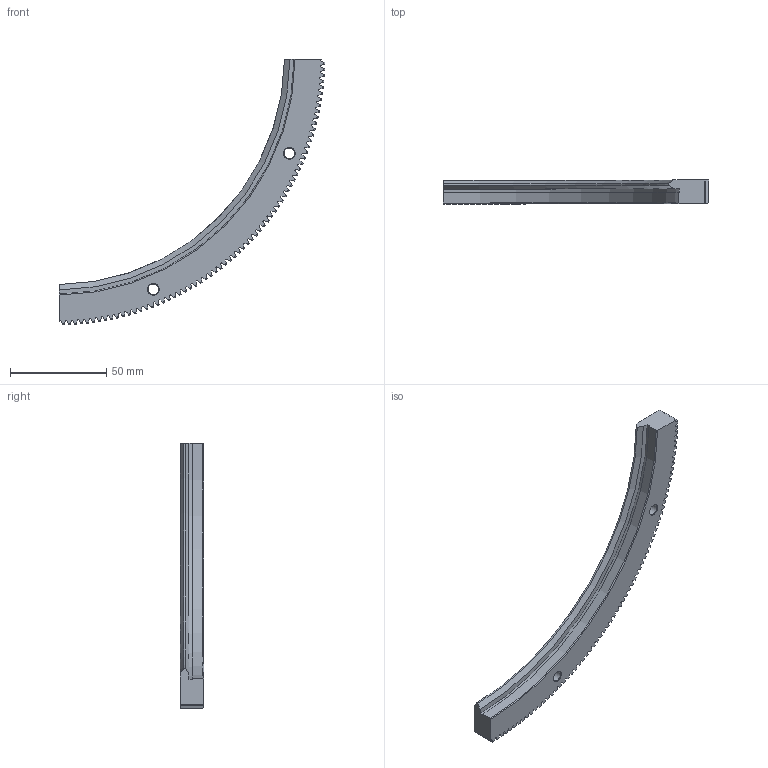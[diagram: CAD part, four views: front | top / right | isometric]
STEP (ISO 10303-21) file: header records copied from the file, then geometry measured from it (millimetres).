
FILE_DESCRIPTION( ( 'STEP AP203' ), '1' );
FILE_NAME( 'p:/temp/worker_79/temp/exporttempdir_6088_49_BjQ87/format_0/RIS 278 R90 P.stp', '2021-09-01T01:41:51', ( 'License CC BY-ND 4.0' ), ( 'CADENAS' ), ' ', 'PARTsolutions', ' ' );
FILE_SCHEMA( ( 'CONFIG_CONTROL_DESIGN' ) );
Length unit declared in the file: millimetre
Products named in the file (1): _RIS 278 R90 P
Bounding box: 137.97 x 12.25 x 137.97 mm (x, y, z)
Volume: 38895.3 mm3; surface area: 15972.7 mm2
Topology: 1 solids, 1 shells, 432 faces, 1282 edges, 854 vertices
Faces by surface type: plane 284, cylinder 74, cone 73, torus 1
Full cylindrical faces by diameter (mm): 5.5 x2, 10 x2
Entity records: 14547 total; most frequent: CARTESIAN_POINT 3003, ORIENTED_EDGE 2552, DIRECTION 2221, EDGE_CURVE 1276, LINE 909, VECTOR 909, VERTEX_POINT 854, AXIS2_PLACEMENT_3D 656
